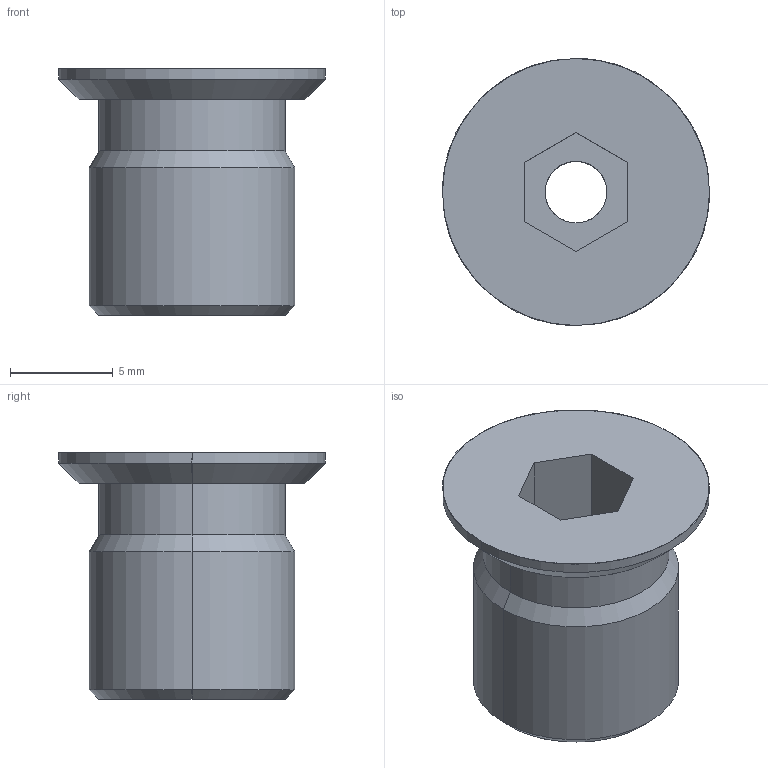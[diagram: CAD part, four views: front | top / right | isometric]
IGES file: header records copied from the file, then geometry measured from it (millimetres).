
Global section: file name: E:\UnigraphicsGraphicData\MISUMI_PRESS-PARTS\IGES\3d_mswzh10_00479_r00.igs; native system: NX V5.0; preprocessor: UGS NX IGES V5.0; author: MISUMI; date: 20110105.161528; units: millimetre
Bounding box: 13 x 13 x 12 mm (x, y, z)
Surface area: 770.8 mm2 (no closed solid volume)
Topology: 0 solids, 0 shells, 24 faces, 140 edges, 140 vertices
Faces by surface type: bspline 24
